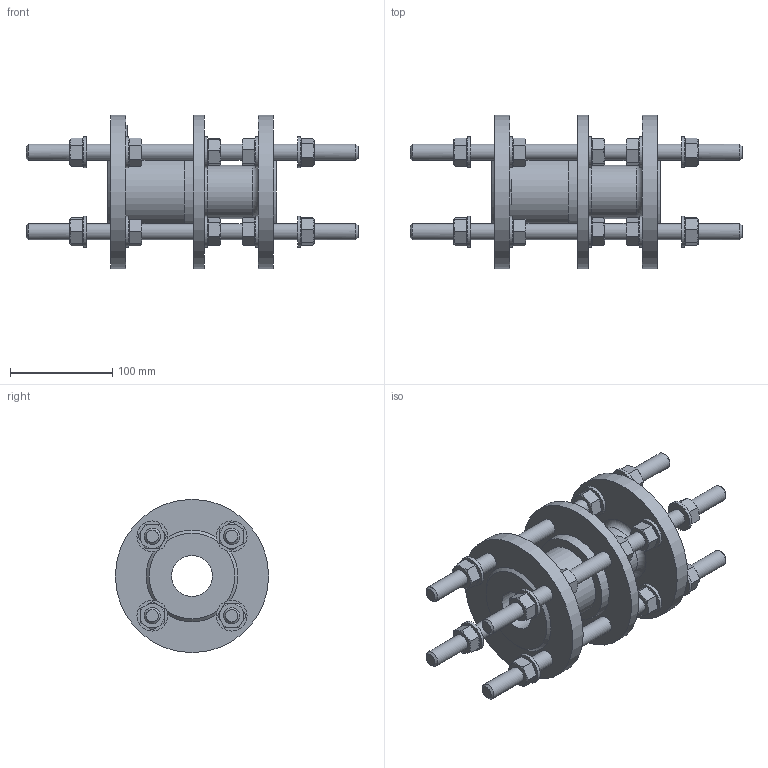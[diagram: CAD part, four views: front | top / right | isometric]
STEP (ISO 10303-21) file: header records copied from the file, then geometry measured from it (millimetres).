
FILE_DESCRIPTION (( 'STEP AP203' ), '1' );
FILE_NAME ('O_265_910_DN40_1XXXXX00_L=165_REV01.step', '2024-10-11T07:54:01', ( '' ), ( '' ), 'SwSTEP 2.0', 'SolidWorks 2022', '' );
FILE_SCHEMA (( 'CONFIG_CONTROL_DESIGN' ));
Length unit declared in the file: millimetre
Products named in the file (1): O_265_910_DN40_1XXXXX00_L=165_REV01
Bounding box: 325 x 150 x 150 mm (x, y, z)
Volume: 1239652.8 mm3; surface area: 229256.5 mm2
Topology: 1 solids, 1 shells, 549 faces, 1206 edges, 726 vertices
Faces by surface type: plane 344, cone 131, cylinder 73, torus 1
Full cylindrical faces by diameter (mm): 16 x24, 24 x20, 30 x20, 40 x1, 52 x2, 69 x1, 150 x3
Entity records: 15142 total; most frequent: CARTESIAN_POINT 3767, DIRECTION 2327, ORIENTED_EDGE 2174, EDGE_CURVE 1087, AXIS2_PLACEMENT_3D 930, EDGE_LOOP 717, VERTEX_POINT 690, FACE_OUTER_BOUND 621
